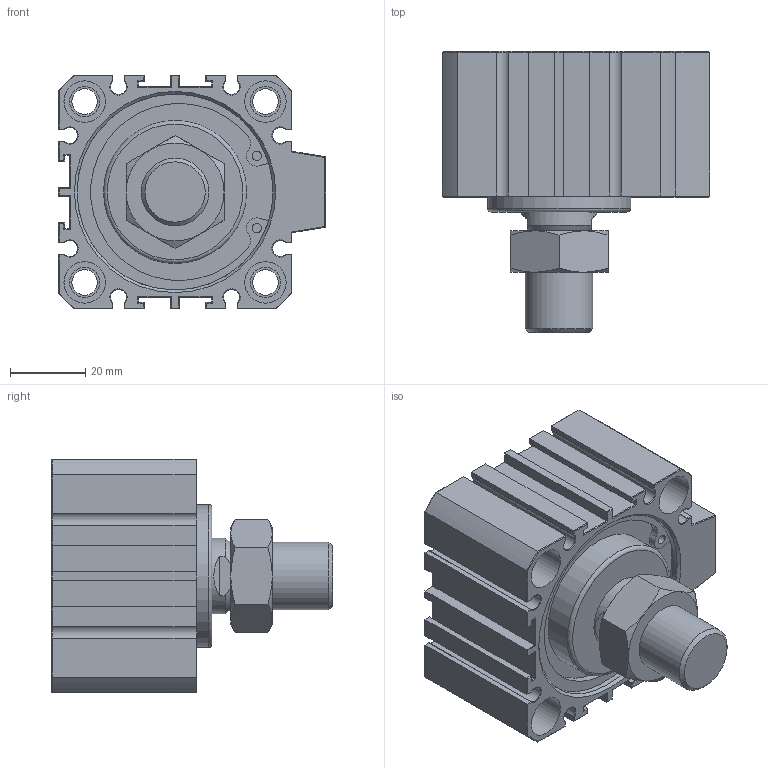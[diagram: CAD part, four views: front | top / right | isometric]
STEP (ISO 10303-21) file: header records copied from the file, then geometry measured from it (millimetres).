
FILE_DESCRIPTION(/* description */ (''),/* implementation_level */ '2;1');
FILE_NAME(/* name */ 'AJC-SD50X10W',/* time_stamp */ '2019-06-18T16:00:29+08:00',/* author */ ('JEFF HUANG'),/* organization */ ('TAIWAN AMAC CLAMP INDUSTRIAL CO., LTD.'),/* preprocessor_version */ 'ST-DEVELOPER v16.7',/* originating_system */ 'DEX',/* authorisation */ $);
FILE_SCHEMA (('AUTOMOTIVE_DESIGN { 1 0 10303 214 3 1 1 }','AUTOMOTIVE_DESIGN {1 0 10303 214 3 1 1}'));
Length unit declared in the file: millimetre
Products named in the file (1): AJC-SD50X10W
Bounding box: 71 x 74.6 x 62 mm (x, y, z)
Volume: 138502.4 mm3; surface area: 32625.6 mm2
Topology: 1 solids, 1 shells, 402 faces, 901 edges, 498 vertices
Faces by surface type: plane 253, cone 75, cylinder 72, torus 2
Full cylindrical faces by diameter (mm): 2.5 x4, 6.8 x4, 8 x8, 11 x8, 12.301 x2, 18 x1, 20 x1, 38 x2, 52 x2
Entity records: 13212 total; most frequent: CARTESIAN_POINT 1859, DIRECTION 1780, ORIENTED_EDGE 1648, EDGE_CURVE 824, AXIS2_PLACEMENT_3D 597, LINE 586, VECTOR 586, VERTEX_POINT 492
